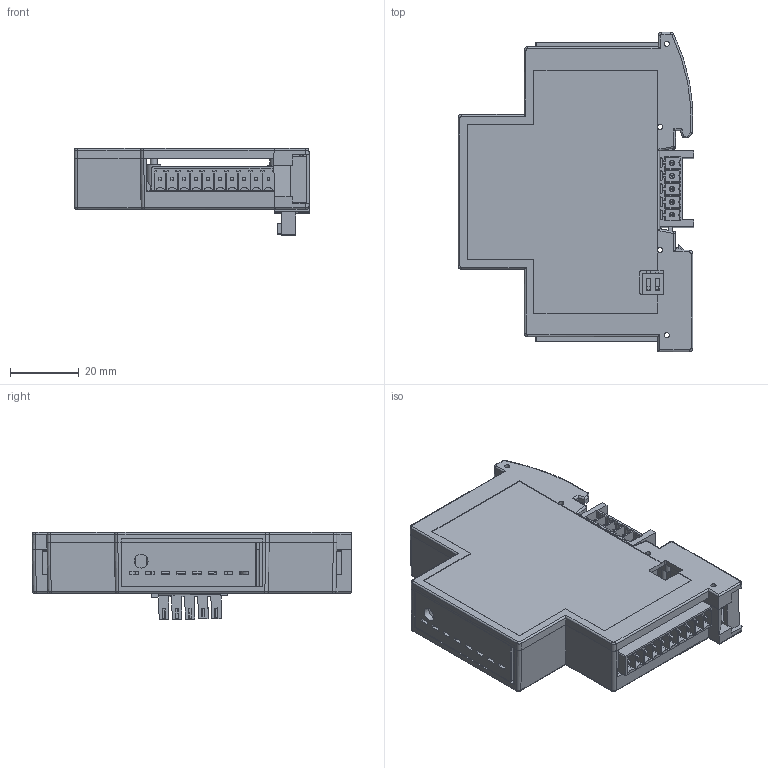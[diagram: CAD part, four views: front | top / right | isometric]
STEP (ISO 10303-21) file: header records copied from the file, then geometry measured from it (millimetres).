
FILE_DESCRIPTION(/* description */ (''),/* implementation_level */ '2;1');
FILE_NAME(/* name */ 'C:\Users\funes\Desktop\Nuova cartella\BT7000_BT7050.stp',/* time_stamp */ '2019-09-30T12:09:55+02:00',/* author */ ('funes'),/* organization */ (''),/* preprocessor_version */ 'ST-DEVELOPER v16.1',/* originating_system */ 'Autodesk Inventor LT ',/* authorisation */ '');
FILE_SCHEMA (('AUTOMOTIVE_DESIGN { 1 0 10303 214 3 1 1 }'));
Products named in the file (1): DM000112_rendering
Bounding box: 68.63 x 93.05 x 25.41 mm (x, y, z)
Volume: 28208.5 mm3; surface area: 42094.6 mm2
Topology: 7 solids, 7 shells, 1746 faces, 4727 edges, 3094 vertices
Faces by surface type: plane 1177, cylinder 509, bspline 23, cone 17, sphere 16, torus 4
Full cylindrical faces by diameter (mm): 1.5 x4, 1.6 x8, 2 x1, 2.1 x2, 2.2 x2, 2.7 x2, 3.5 x4, 3.66 x2, 4 x1
Entity records: 57002 total; most frequent: CARTESIAN_POINT 11773, ORIENTED_EDGE 9324, DIRECTION 8837, EDGE_CURVE 4662, LINE 3581, VECTOR 3581, VERTEX_POINT 3077, AXIS2_PLACEMENT_3D 2628
